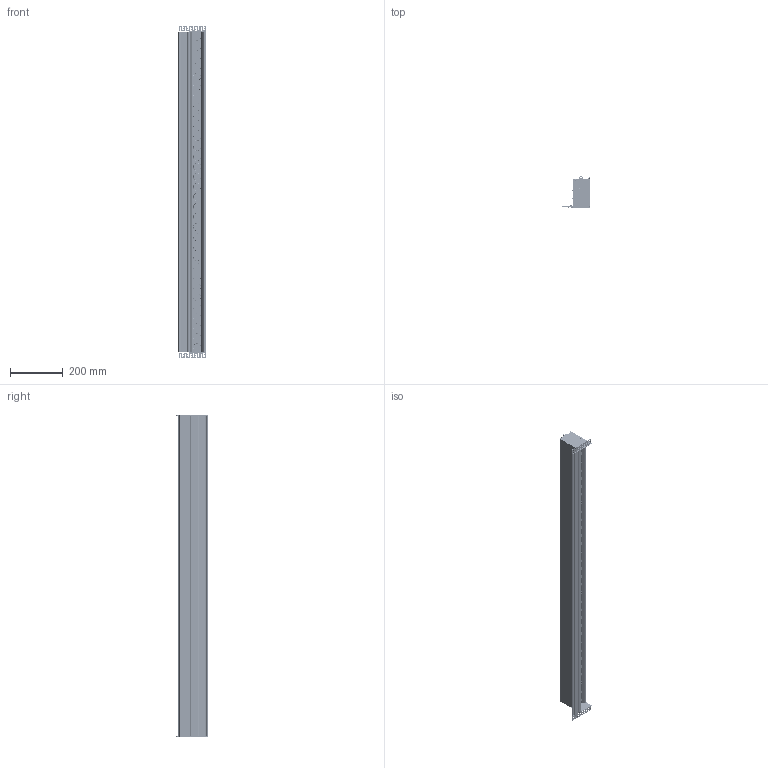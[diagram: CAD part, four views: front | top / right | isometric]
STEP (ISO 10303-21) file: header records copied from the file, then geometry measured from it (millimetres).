
FILE_DESCRIPTION (( 'STEP AP214' ), '1' );
FILE_NAME ('60PTLP-RPT-REO.STEP', '2023-02-14T21:07:30', ( '' ), ( '' ), 'SwSTEP 2.0', 'SolidWorks 2021', '' );
FILE_SCHEMA (( 'AUTOMOTIVE_DESIGN' ));
Length unit declared in the file: inch
Products named in the file (22): 610-20809-930-152.4MM_Full length; 730-20910-100; 730-20959-101; 710-10422-303-SA_710-10422-303-4''; 730-20909-100; 310-10029-101_92005A112; 730-10066; 720-10214-400; 310-10040-101_310-10040-101; 310-10159-101_92005A218; ProTools Linear Perimeter Housing Assemblies_Perimeter Plaster; 60PTLP-RPT-REO; 710-10416-300_2'' for joiner drawing suspended; 310-10020-101_310-10020-101; 410-20037; ProTools Perimeter plaster end cap A; ProTools Linear Perimeter GT_REO; 710-10424-300_710-10424-300-4''; ProTools Linear plaster end cap C; Mirror410-20037; 330-10009-400
Assembly tree (74 placements, depth 4):
  60PTLP-RPT-REO
    ProTools Linear Perimeter Housing Assemblies_Perimeter Plaster
      710-10416-300_2'' for joiner drawing suspended
      730-20909-100
        ProTools Perimeter plaster end cap A
        ProTools Linear plaster end cap C
      730-20910-100
        ProTools Perimeter plaster end cap A
        ProTools Linear plaster end cap C
      310-10040-101_310-10040-101  x6
    ProTools Linear Perimeter GT_REO
      710-10422-303-SA_710-10422-303-4''
      710-10424-300_710-10424-300-4''
      310-10029-101_92005A112  x5
      610-20809-930-152.4MM_Full length  x3
      310-10159-101_92005A218
      330-10009-400
      720-10214-400  x32
      310-10020-101_310-10020-101  x8
      730-20959-101  x2
      730-10066  x2
      410-20037
        410-20037
        Mirror410-20037
Bounding box: 102.76 x 120.95 x 1262.2 mm (x, y, z)
Volume: 2042413.1 mm3; surface area: 2040658 mm2
Topology: 133 solids, 133 shells, 27142 faces, 71291 edges, 45159 vertices
Faces by surface type: plane 8325, cylinder 7382, bspline 6706, cone 3135, torus 1566, sphere 28
Entity records: 99339 total; most frequent: CARTESIAN_POINT 33627, ORIENTED_EDGE 13656, DIRECTION 12134, EDGE_CURVE 6828, VERTEX_POINT 4469, AXIS2_PLACEMENT_3D 4246, VECTOR 3642, LINE 3642
